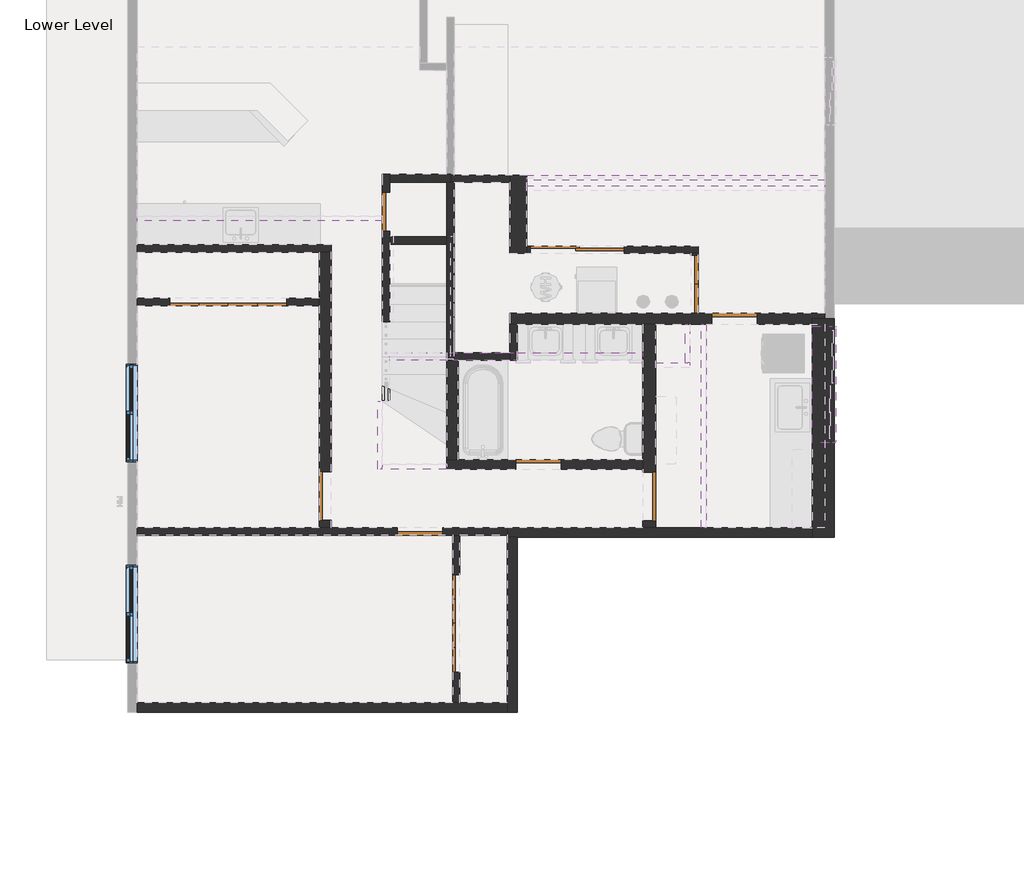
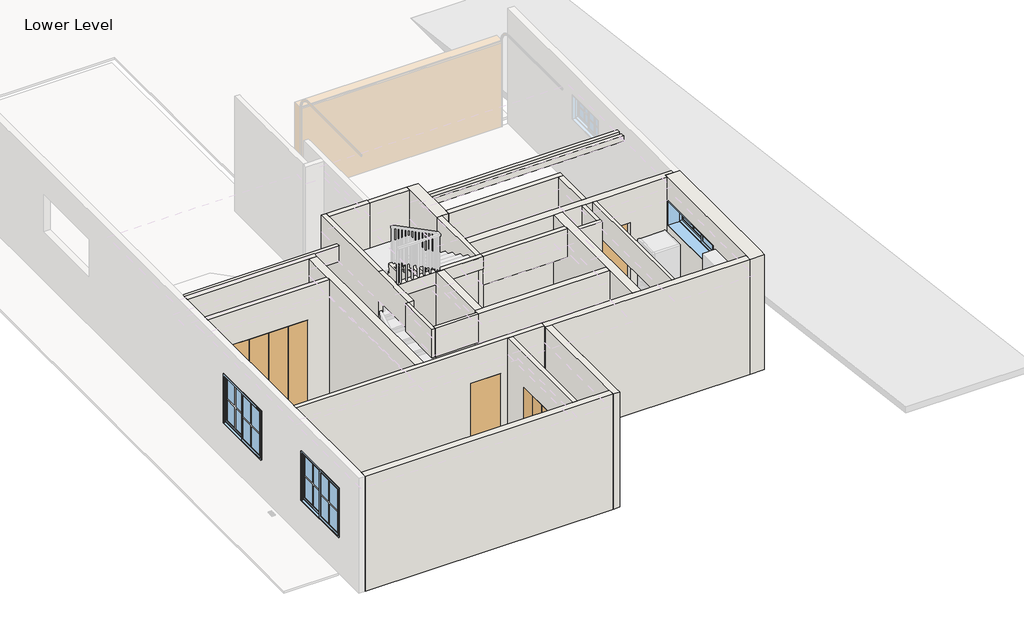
# One storey, part 1 of 3: 33 walls, 10 doors, 3 windows.
"""IFC4 building model written with IfcOpenShell, lengths in millimetres."""

from ifc_helpers import new_model, si_unit, frame, origin, place, context, project, spatial, polyline, outline, extrude, faceted_brep, transform, mapped, element, save
from components import door_0eaff616, door_2ab74324, door_614be32d, door_bd139ccc, door_8162d734, door_73b491b7, door_04865f0e, door_2d0d1de0, door_69b0f0e7, door_f2f0d49f, default_1_34086e57, default_1_390526ce

model = new_model("IFC4")

# Units and contexts
model_context = context("Model", 3, world=origin())
ifc_project = project(units=[si_unit("LENGTHUNIT", "METRE", prefix="MILLI")], contexts=[model_context])

# Site, building, storey
site = spatial("IfcSite", under=ifc_project)
building = spatial("IfcBuilding", under=site)
storey = spatial("IfcBuildingStorey", under=building, Name="Lower Level", Elevation=-2844.8)

# Doors
placement = place(None, origin())
door_shape = door_0eaff616(model_context)
element("IfcDoor", 1, ObjectType="Planitar - Single Door_Flush Panel : 2'-0\" x 6'-8\"", at=placement, inside=storey, context=model_context, shape_type="MappedRepresentation", body=[
    mapped(door_shape, transform((-1797.9255931, -1218.8938544, -2844.8), x_axis=(0.0, -1.0, 0.0), y_axis=(1.0, 0.0, 0.0), z_axis=(0.0, 0.0, 1.0))),
])
door_2_shape = door_2ab74324(model_context)
element("IfcDoor", 2, ObjectType="Planitar - Single Door_Flush Panel : 2'-4\" x 6'-8\"", at=placement, inside=storey, context=model_context, shape_type="MappedRepresentation", body=[
    mapped(door_2_shape, transform((-1270.8755931, -6222.6938544, -2844.8), x_axis=(1.0, 0.0, 0.0), y_axis=(0.0, 1.0, 0.0), z_axis=(0.0, 0.0, 1.0))),
])
door_3_shape = door_614be32d(model_context)
element("IfcDoor", 3, ObjectType="Planitar - Single Door_Flush Panel : 2'-4\" x 6'-8\"", at=placement, inside=storey, context=model_context, shape_type="MappedRepresentation", body=[
    mapped(door_3_shape, transform((589.6744069, -5174.9438544, -2844.8), x_axis=(-1.0, 0.0, 0.0), y_axis=(0.0, -1.0, 0.0), z_axis=(0.0, 0.0, 1.0))),
])
door_4_shape = door_bd139ccc(model_context)
element("IfcDoor", 4, ObjectType="Planitar - Single Door_Flush Panel : 2'-4\" x 6'-8\"", at=placement, inside=storey, context=model_context, shape_type="MappedRepresentation", body=[
    mapped(door_4_shape, transform((3653.5494069, -2895.2938544, -2844.8), x_axis=(1.0, 0.0, 0.0), y_axis=(0.0, 1.0, 0.0), z_axis=(0.0, 0.0, 1.0))),
])
door_5_shape = door_8162d734(model_context)
element("IfcDoor", 5, ObjectType="Planitar - Single Door_Flush Panel : 2'-6\" x 6'-8\"", at=placement, inside=storey, context=model_context, shape_type="MappedRepresentation", body=[
    mapped(door_5_shape, transform((-2750.4255931, -5670.2438544, -2844.8), x_axis=(0.0, -1.0, 0.0), y_axis=(1.0, 0.0, 0.0), z_axis=(0.0, 0.0, 1.0))),
])
door_6_shape = door_73b491b7(model_context)
element("IfcDoor", 6, ObjectType="Planitar - Single Door_Flush Panel : 2'-6\" x 6'-8\"", at=placement, inside=storey, context=model_context, shape_type="MappedRepresentation", body=[
    mapped(door_6_shape, transform((2323.2244069, -5676.5938544, -2844.8), x_axis=(0.0, -1.0, 0.0), y_axis=(1.0, 0.0, 0.0), z_axis=(0.0, 0.0, 1.0))),
])
door_7_shape = door_04865f0e(model_context)
element("IfcDoor", 7, ObjectType="Planitar - Double Door_Flush Panel : 3'-0\" x 6'-8\"", at=placement, inside=storey, context=model_context, shape_type="MappedRepresentation", body=[
    mapped(door_7_shape, transform((3028.0744069, -2355.5438544, -2844.8), x_axis=(0.0, -1.0, 0.0), y_axis=(1.0, 0.0, 0.0), z_axis=(0.0, 0.0, 1.0))),
])
door_8_shape = door_2d0d1de0(model_context)
element("IfcDoor", 8, ObjectType="Planitar - Double Sliding Door_Flush Panel : 4'-6\" x 6'-8\" 2", at=placement, inside=storey, context=model_context, shape_type="MappedRepresentation", body=[
    mapped(door_8_shape, transform((1196.0994069, -1812.6188544, -2844.8), x_axis=(1.0, 0.0, 0.0), y_axis=(0.0, 1.0, 0.0), z_axis=(0.0, 0.0, 1.0))),
])
door_9_shape = door_69b0f0e7(model_context)
element("IfcDoor", 9, ObjectType="Planitar - Bifold Door : 5'-0\" x 6' -8\"", at=placement, inside=storey, context=model_context, shape_type="MappedRepresentation", body=[
    mapped(door_9_shape, transform((-699.3755931, -7664.1438544, -2844.8), x_axis=(0.0, 1.0, 0.0), y_axis=(-1.0, 0.0, 0.0), z_axis=(0.0, 0.0, 1.0))),
])
door_10_shape = door_f2f0d49f(model_context)
element("IfcDoor", 10, ObjectType="Planitar - Bifold Door : 6'-0\" x 6'-8\"", at=placement, inside=storey, context=model_context, shape_type="MappedRepresentation", body=[
    mapped(door_10_shape, transform((-4268.0755931, -2634.9438544, -2844.8), x_axis=(-1.0, 0.0, 0.0), y_axis=(0.0, -1.0, 0.0), z_axis=(0.0, 0.0, 1.0))),
])

# Walls
element("IfcWall", 11, ObjectType="Planitar - Generic 6\"", at=placement, inside=storey, context=model_context, shape_type="Brep", body=[
    faceted_brep([(4875.9244069, -6165.5438544, 0.0), (4875.9244069, -6165.5438544, -2844.8), (2424.8244069, -6165.5438544, -2844.8), (2221.6244069, -6165.5438544, -2844.8), (100.7244069, -6165.5438544, -2844.8), (100.7244069, -6165.5438544, 0.0), (253.1244069, -6165.5438544, 0.0), (307.8931569, -6165.5438544, 0.0), (1374.6931569, -6165.5438544, 0.0), (2221.6244069, -6165.5438544, 0.0), (2424.8244069, -6165.5438544, 0.0), (3136.0244069, -6165.5438544, 0.0), (3212.2244069, -6165.5438544, 0.0), (4875.9244069, -6317.9438544, -2844.8), (4875.9244069, -6317.9438544, 0.0), (1374.6931569, -6317.9438544, 0.0), (307.8931569, -6317.9438544, 0.0), (253.1244069, -6317.9438544, 0.0), (100.7244069, -6317.9438544, 0.0), (100.7244069, -6317.9438544, -2844.8), (253.1244069, -6317.9438544, -2844.8), (100.7244069, -6279.8438544, -2844.8), (100.7244069, -6279.8438544, 0.0)], [[[0, 1, 2, 3, 4, 5, 6, 7, 8, 9, 10, 11, 12]], [[13, 14, 15, 16, 17, 18, 19, 20]], [[4, 3, 2, 1, 13, 20, 19, 21]], [[0, 12, 11, 10, 9, 8, 7, 6, 5, 22, 18, 17, 16, 15, 14]], [[5, 4, 21, 19, 18, 22]], [[0, 14, 13, 1]]]),
])
element("IfcWall", 12, ObjectType="Planitar - Generic 6\"", at=placement, inside=storey, context=model_context, shape_type="Brep", body=[
    faceted_brep([(100.7244069, -6317.9438544, -2844.8), (100.7244069, -8902.3938544, -2844.8), (100.7244069, -9054.7938544, -2844.8), (100.7244069, -9054.7938544, 0.0), (100.7244069, -8902.3938544, 0.0), (100.7244069, -6317.9438544, 0.0), (253.1244069, -6317.9438544, -2844.8), (253.1244069, -6317.9438544, 0.0), (253.1244069, -8902.3938544, 0.0), (253.1244069, -9054.7938544, 0.0), (253.1244069, -9054.7938544, -203.2), (253.1244069, -9054.7938544, -304.8), (253.1244069, -9054.7938544, -2844.8)], [[[0, 1, 2, 3, 4, 5]], [[6, 7, 8, 9, 10, 11, 12]], [[2, 1, 0, 6, 12]], [[5, 4, 3, 9, 8, 7]], [[0, 5, 7, 6]], [[2, 12, 11, 10, 9, 3]]]),
])
element("IfcWall", 13, ObjectType="Planitar - Generic 6\"", at=placement, inside=storey, context=model_context, shape_type="Brep", body=[
    faceted_brep([(100.7244069, -8902.3938544, 0.0), (100.7244069, -8902.3938544, -2844.8), (-642.2255931, -8902.3938544, -2844.8), (-756.5255931, -8902.3938544, -2844.8), (-5690.4755931, -8902.3938544, -2844.8), (-5690.4755931, -8902.3938544, 0.0), (-756.5255931, -8902.3938544, 0.0), (-642.2255931, -8902.3938544, 0.0), (100.7244069, -9054.7938544, -2844.8), (100.7244069, -9054.7938544, 0.0), (-5690.4755931, -9054.7938544, 0.0), (-5690.4755931, -9054.7938544, -2844.8)], [[[0, 1, 2, 3, 4, 5, 6, 7]], [[8, 9, 10, 11]], [[4, 3, 2, 1, 8, 11]], [[0, 7, 6, 5, 10, 9]], [[5, 4, 11, 10]], [[0, 9, 8, 1]]]),
])
element("IfcWall", 14, ObjectType="Planitar - Generic 4 1/2\"", at=placement, inside=storey, context=model_context, shape_type="Brep", body=[
    faceted_brep([(100.7244069, -6165.5438544, -2844.8), (-915.2755931, -6165.5438544, -2844.8), (-915.2755931, -6165.5438544, -812.8), (-1626.4755931, -6165.5438544, -812.8), (-1626.4755931, -6165.5438544, -2844.8), (-2655.1755931, -6165.5438544, -2844.8), (-2845.6755931, -6165.5438544, -2844.8), (-5690.4755931, -6165.5438544, -2844.8), (-5690.4755931, -6165.5438544, 0.0), (-2845.6755931, -6165.5438544, 0.0), (-2655.1755931, -6165.5438544, 0.0), (100.7244069, -6165.5438544, 0.0), (-915.2755931, -6279.8438544, -812.8), (-915.2755931, -6279.8438544, -2844.8), (-756.5255931, -6279.8438544, -2844.8), (-642.2255931, -6279.8438544, -2844.8), (100.7244069, -6279.8438544, -2844.8), (100.7244069, -6279.8438544, 0.0), (-642.2255931, -6279.8438544, 0.0), (-756.5255931, -6279.8438544, 0.0), (-5690.4755931, -6279.8438544, 0.0), (-5690.4755931, -6279.8438544, -2844.8), (-1626.4755931, -6279.8438544, -2844.8), (-1626.4755931, -6279.8438544, -812.8)], [[[0, 1, 2, 3, 4, 5, 6, 7, 8, 9, 10, 11]], [[12, 13, 14, 15, 16, 17, 18, 19, 20, 21, 22, 23]], [[22, 21, 7, 6, 5, 4]], [[16, 15, 14, 13, 1, 0]], [[11, 10, 9, 8, 20, 19, 18, 17]], [[0, 11, 17, 16]], [[8, 7, 21, 20]], [[2, 1, 13, 12]], [[3, 2, 12, 23]], [[4, 3, 23, 22]]]),
])
element("IfcWall", 15, ObjectType="Planitar - Generic 4 1/2\"", at=placement, inside=storey, context=model_context, shape_type="SweptSolid", body=[
    extrude(outline(polyline([(-8902.3938544, 0.0), (-6279.8438544, 0.0), (-6279.8438544, -2844.8), (-6902.1438544, -2844.8), (-6902.1438544, -812.8), (-8426.1438544, -812.8), (-8426.1438544, -2844.8), (-8902.3938544, -2844.8), (-8902.3938544, 0.0)])), frame((-756.5255931, 0.0, 0.0), z_axis=(1.0, 0.0, 0.0), x_axis=(0.0, 1.0, 0.0)), (0.0, 0.0, 1.0), 114.3),
])
element("IfcWall", 16, ObjectType="Planitar - Generic 4 1/2\"", at=placement, inside=storey, context=model_context, shape_type="Brep", body=[
    faceted_brep([(-5690.4755931, -1853.8938544, -2844.8), (-2845.6755931, -1853.8938544, -2844.8), (-2655.1755931, -1853.8938544, -2844.8), (-2655.1755931, -1853.8938544, 0.0), (-2845.6755931, -1853.8938544, 0.0), (-5690.4755931, -1853.8938544, 0.0), (-5690.4755931, -1739.5938544, -2844.8), (-5690.4755931, -1739.5938544, 0.0), (-2655.1755931, -1739.5938544, 0.0), (-2655.1755931, -1739.5938544, -2844.8)], [[[0, 1, 2, 3, 4, 5]], [[6, 7, 8, 9]], [[2, 1, 0, 6, 9]], [[5, 4, 3, 8, 7]], [[0, 5, 7, 6]], [[3, 2, 9, 8]]]),
])
element("IfcWall", 17, ObjectType="Planitar - Generic 4 1/2\"", at=placement, inside=storey, context=model_context, shape_type="SweptSolid", body=[
    extrude(outline(polyline([(0.0, -2845.6755931), (0.0, -5690.4755931), (-2844.8, -5690.4755931), (-2844.8, -5182.4755931), (-812.8, -5182.4755931), (-812.8, -3353.6755931), (-2844.8, -3353.6755931), (-2844.8, -2845.6755931), (0.0, -2845.6755931)])), frame((0.0, -2692.0938544, 0.0), z_axis=(0.0, 1.0, 0.0), x_axis=(0.0, 0.0, 1.0)), (0.0, 0.0, 1.0), 114.3),
])
element("IfcWall", 18, ObjectType="Planitar - Generic 7 1/2\"", at=placement, inside=storey, context=model_context, shape_type="Brep", body=[
    faceted_brep([(-2845.6755931, -6051.2438544, -812.8), (-2845.6755931, -6051.2438544, -2844.8), (-2845.6755931, -6165.5438544, -2844.8), (-2845.6755931, -6165.5438544, 0.0), (-2845.6755931, -2692.0938544, 0.0), (-2845.6755931, -2577.7938544, 0.0), (-2845.6755931, -1853.8938544, 0.0), (-2845.6755931, -1853.8938544, -2844.8), (-2845.6755931, -2577.7938544, -2844.8), (-2845.6755931, -2692.0938544, -2844.8), (-2845.6755931, -5289.2438544, -2844.8), (-2845.6755931, -5289.2438544, -812.8), (-2655.1755931, -6165.5438544, -2844.8), (-2655.1755931, -6051.2438544, -2844.8), (-2655.1755931, -6051.2438544, -812.8), (-2655.1755931, -5289.2438544, -812.8), (-2655.1755931, -5289.2438544, -2844.8), (-2655.1755931, -1853.8938544, -2844.8), (-2655.1755931, -1853.8938544, 0.0), (-2655.1755931, -6165.5438544, 0.0)], [[[0, 1, 2, 3, 4, 5, 6, 7, 8, 9, 10, 11]], [[12, 13, 14, 15, 16, 17, 18, 19]], [[2, 1, 13, 12]], [[10, 9, 8, 7, 17, 16]], [[6, 5, 4, 3, 19, 18]], [[7, 6, 18, 17]], [[3, 2, 12, 19]], [[14, 13, 1, 0]], [[15, 14, 0, 11]], [[16, 15, 11, 10]]]),
])
element("IfcWall", 19, ObjectType="Planitar - Generic 6\"", at=placement, inside=storey, context=model_context, shape_type="Brep", body=[
    faceted_brep([(-845.4255931, -5251.1438544, -2844.8), (234.0744069, -5251.1438544, -2844.8), (234.0744069, -5251.1438544, -812.8), (945.2744069, -5251.1438544, -812.8), (945.2744069, -5251.1438544, -2844.8), (2221.6244069, -5251.1438544, -2844.8), (2221.6244069, -5251.1438544, 0.0), (-845.4255931, -5251.1438544, 0.0), (-845.4255931, -5251.1438544, -698.5), (234.0744069, -5098.7438544, -812.8), (234.0744069, -5098.7438544, -2844.8), (-667.6255931, -5098.7438544, -2844.8), (-845.4255931, -5098.7438544, -2844.8), (-845.4255931, -5098.7438544, 0.0), (-667.6255931, -5098.7438544, 0.0), (2221.6244069, -5098.7438544, 0.0), (2221.6244069, -5098.7438544, -2844.8), (945.2744069, -5098.7438544, -2844.8), (945.2744069, -5098.7438544, -812.8), (-845.4255931, -5174.9438544, 0.0)], [[[0, 1, 2, 3, 4, 5, 6, 7, 8]], [[9, 10, 11, 12, 13, 14, 15, 16, 17, 18]], [[17, 16, 5, 4]], [[12, 11, 10, 1, 0]], [[7, 6, 15, 14, 13, 19]], [[6, 5, 16, 15]], [[7, 19, 13, 12, 0, 8]], [[2, 1, 10, 9]], [[3, 2, 9, 18]], [[4, 3, 18, 17]]]),
])
element("IfcWall", 20, ObjectType="Planitar - Generic 7\"", at=placement, inside=storey, context=model_context, shape_type="Brep", body=[
    faceted_brep([(-667.6255931, -5098.7438544, 0.0), (-667.6255931, -5098.7438544, -2844.8), (-667.6255931, -3542.9938544, -2844.8), (-667.6255931, -3542.9938544, 0.0), (-845.4255931, -5098.7438544, -2844.8), (-845.4255931, -5098.7438544, 0.0), (-845.4255931, -3542.9938544, 0.0), (-845.4255931, -3542.9938544, -158.0444444), (-845.4255931, -3542.9938544, -2844.8), (-731.1255931, -3542.9938544, -2844.8), (-731.1255931, -3542.9938544, 0.0)], [[[0, 1, 2, 3]], [[4, 5, 6, 7, 8]], [[2, 1, 4, 8, 9]], [[0, 3, 10, 6, 5]], [[0, 5, 4, 1]], [[2, 9, 8, 7, 6, 10, 3]]]),
])
element("IfcWall", 21, ObjectType="Planitar - Generic 4 1/2\"", at=placement, inside=storey, context=model_context, shape_type="Brep", body=[
    faceted_brep([(-1740.7755931, -3542.9938544, -304.8), (138.8244069, -3542.9938544, -304.8), (253.1244069, -3542.9938544, -304.8), (253.1244069, -3542.9938544, 0.0), (-667.6255931, -3542.9938544, 0.0), (-845.4255931, -3542.9938544, 0.0), (-1740.7755931, -3542.9938544, 0.0), (-1740.7755931, -3428.6938544, -304.8), (-1740.7755931, -3428.6938544, 0.0), (138.8244069, -3428.6938544, 0.0), (253.1244069, -3428.6938544, 0.0), (253.1244069, -3428.6938544, -304.8), (138.8244069, -3428.6938544, -304.8)], [[[0, 1, 2, 3, 4, 5, 6]], [[7, 8, 9, 10, 11, 12]], [[3, 2, 11, 10]], [[0, 6, 8, 7]], [[2, 1, 0, 7, 12, 11]], [[6, 5, 4, 3, 10, 9, 8]]]),
])
element("IfcWall", 22, ObjectType="Planitar - Generic 4 1/2\"", at=placement, inside=storey, context=model_context, shape_type="Brep", body=[
    faceted_brep([(253.1244069, -3542.9938544, -304.8), (253.1244069, -3542.9938544, -698.5), (253.1244069, -3542.9938544, -2844.8), (253.1244069, -2977.8438544, -2844.8), (253.1244069, -2977.8438544, -474.1333333), (253.1244069, -2812.7438544, -474.1333333), (253.1244069, -2598.3225068, -474.1333333), (253.1244069, -2623.3225068, -632.1777778), (253.1244069, -2211.4653909, -632.1777778), (253.1244069, -2236.4653909, -790.2222222), (253.1244069, -1907.158275, -790.2222222), (253.1244069, -1932.158275, -948.2666667), (253.1244069, -1872.9438544, -948.2666667), (253.1244069, -1872.9438544, 0.0), (253.1244069, -2812.7438544, 0.0), (253.1244069, -2977.8438544, 0.0), (253.1244069, -3428.6938544, 0.0), (253.1244069, -3428.6938544, -304.8), (138.8244069, -3542.9938544, -2844.8), (138.8244069, -3542.9938544, -304.8), (138.8244069, -3428.6938544, -304.8), (138.8244069, -3428.6938544, 0.0), (138.8244069, -1872.9438544, 0.0), (138.8244069, -1872.9438544, -948.2666667), (138.8244069, -1932.158275, -948.2666667), (138.8244069, -1907.158275, -790.2222222), (138.8244069, -2236.4653909, -790.2222222), (138.8244069, -2211.4653909, -632.1777778), (138.8244069, -2623.3225068, -632.1777778), (138.8244069, -2598.3225068, -474.1333333), (138.8244069, -2812.7438544, -474.1333333), (138.8244069, -2977.8438544, -474.1333333), (138.8244069, -2977.8438544, -2844.8), (138.8244069, -3428.6938544, -2844.8)], [[[0, 1, 2, 3, 4, 5, 6, 7, 8, 9, 10, 11, 12, 13, 14, 15, 16, 17]], [[18, 19, 20, 21, 22, 23, 24, 25, 26, 27, 28, 29, 30, 31, 32, 33]], [[0, 19, 18, 2, 1]], [[17, 16, 21, 20]], [[16, 15, 14, 13, 22, 21]], [[17, 20, 19, 0]], [[6, 5, 4, 31, 30, 29]], [[7, 6, 29, 28]], [[8, 7, 28, 27]], [[9, 8, 27, 26]], [[10, 9, 26, 25]], [[11, 10, 25, 24]], [[12, 11, 24, 23]], [[3, 2, 18, 33, 32]], [[4, 3, 32, 31]], [[13, 12, 23, 22]]]),
])
element("IfcWall", 23, ObjectType="Planitar - Generic 6 1/2\"", at=placement, inside=storey, context=model_context, shape_type="Brep", body=[
    faceted_brep([(4009.1494069, -2977.8438544, -812.8), (4009.1494069, -2977.8438544, -2844.8), (4875.9244069, -2977.8438544, -2844.8), (4875.9244069, -2977.8438544, 0.0), (3212.2244069, -2977.8438544, 0.0), (3136.0244069, -2977.8438544, 0.0), (2958.2244069, -2977.8438544, 0.0), (2882.0244069, -2977.8438544, 0.0), (2424.8244069, -2977.8438544, 0.0), (2221.6244069, -2977.8438544, 0.0), (253.1244069, -2977.8438544, 0.0), (253.1244069, -2977.8438544, -474.1333333), (138.8244069, -2977.8438544, -474.1333333), (138.8244069, -2977.8438544, -2844.8), (253.1244069, -2977.8438544, -2844.8), (2221.6244069, -2977.8438544, -2844.8), (2424.8244069, -2977.8438544, -2844.8), (3297.9494069, -2977.8438544, -2844.8), (3297.9494069, -2977.8438544, -812.8), (5066.4244069, -2812.7438544, -2844.8), (4009.1494069, -2812.7438544, -2844.8), (4009.1494069, -2812.7438544, -812.8), (3297.9494069, -2812.7438544, -812.8), (3297.9494069, -2812.7438544, -2844.8), (138.8244069, -2812.7438544, -2844.8), (138.8244069, -2812.7438544, -474.1333333), (253.1244069, -2812.7438544, -474.1333333), (253.1244069, -2812.7438544, 0.0), (2970.9244069, -2812.7438544, 0.0), (3085.2244069, -2812.7438544, 0.0), (5066.4244069, -2812.7438544, 0.0), (5066.4244069, -2895.2938544, -2844.8), (4875.9244069, -2895.2938544, -2844.8), (4875.9244069, -2895.2938544, 0.0), (5066.4244069, -2895.2938544, 0.0)], [[[0, 1, 2, 3, 4, 5, 6, 7, 8, 9, 10, 11, 12, 13, 14, 15, 16, 17, 18]], [[19, 20, 21, 22, 23, 24, 25, 26, 27, 28, 29, 30]], [[2, 1, 20, 19, 31, 32]], [[17, 16, 15, 14, 13, 24, 23]], [[10, 9, 8, 7, 6, 5, 4, 3, 33, 34, 30, 29, 28, 27]], [[3, 2, 32, 33]], [[21, 20, 1, 0]], [[22, 21, 0, 18]], [[23, 22, 18, 17]], [[32, 31, 34, 33]], [[31, 19, 30, 34]], [[11, 26, 25, 12]], [[13, 12, 25, 24]], [[11, 10, 27, 26]]]),
])
element("IfcWall", 24, ObjectType="Planitar - Generic 8\"", at=placement, inside=storey, context=model_context, shape_type="Brep", body=[
    faceted_brep([(2221.6244069, -6057.5938544, -812.8), (2221.6244069, -6057.5938544, -2844.8), (2221.6244069, -6165.5438544, -2844.8), (2221.6244069, -6165.5438544, 0.0), (2221.6244069, -5251.1438544, 0.0), (2221.6244069, -5098.7438544, 0.0), (2221.6244069, -3542.9938544, 0.0), (2221.6244069, -3428.6938544, 0.0), (2221.6244069, -2977.8438544, 0.0), (2221.6244069, -2977.8438544, -2844.8), (2221.6244069, -5098.7438544, -2844.8), (2221.6244069, -5251.1438544, -2844.8), (2221.6244069, -5295.5938544, -2844.8), (2221.6244069, -5295.5938544, -812.8), (2424.8244069, -6165.5438544, -2844.8), (2424.8244069, -6057.5938544, -2844.8), (2424.8244069, -6057.5938544, -812.8), (2424.8244069, -5295.5938544, -812.8), (2424.8244069, -5295.5938544, -2844.8), (2424.8244069, -2977.8438544, -2844.8), (2424.8244069, -2977.8438544, 0.0), (2424.8244069, -3587.4438544, 0.0), (2424.8244069, -3663.6438544, 0.0), (2424.8244069, -6165.5438544, 0.0)], [[[0, 1, 2, 3, 4, 5, 6, 7, 8, 9, 10, 11, 12, 13]], [[14, 15, 16, 17, 18, 19, 20, 21, 22, 23]], [[2, 1, 15, 14]], [[12, 11, 10, 9, 19, 18]], [[8, 7, 6, 5, 4, 3, 23, 22, 21, 20]], [[3, 2, 14, 23]], [[9, 8, 20, 19]], [[16, 15, 1, 0]], [[17, 16, 0, 13]], [[18, 17, 13, 12]]]),
])
element("IfcWall", 25, ObjectType="Planitar - Generic 4 1/2\"", at=placement, inside=storey, context=model_context, shape_type="Brep", body=[
    faceted_brep([(-1855.0755931, -1523.6938544, -1270.0), (-1855.0755931, -1523.6938544, -2844.8), (-1855.0755931, -4138.8193993, -2844.8), (-1855.0755931, -4169.0437692, -2686.7555556), (-1855.0755931, -3905.1970966, -2686.7555556), (-1855.0755931, -3923.7238411, -2578.7111111), (-1855.0755931, -3719.6792657, -2578.7111111), (-1855.0755931, -3744.6792657, -2420.6666667), (-1855.0755931, -3440.2792657, -2420.6666667), (-1855.0755931, -3465.2792657, -2262.6222222), (-1855.0755931, -3160.8792657, -2262.6222222), (-1855.0755931, -3185.8792657, -2104.5777778), (-1855.0755931, -2939.7438544, -2104.5777778), (-1855.0755931, -2939.7438544, -698.5), (-1855.0755931, -4184.3438544, -698.5), (-1855.0755931, -4184.3438544, 0.0), (-1855.0755931, -2939.7438544, 0.0), (-1855.0755931, -634.6938544, 0.0), (-1855.0755931, -634.6938544, -2844.8), (-1855.0755931, -914.0938544, -2844.8), (-1855.0755931, -914.0938544, -1270.0), (-1740.7755931, -4138.8193993, -2844.8), (-1740.7755931, -1726.8938544, -2844.8), (-1740.7755931, -1612.5938544, -2844.8), (-1740.7755931, -1523.6938544, -2844.8), (-1740.7755931, -1523.6938544, -1270.0), (-1740.7755931, -914.0938544, -1270.0), (-1740.7755931, -914.0938544, -2844.8), (-1740.7755931, -761.6938544, -2844.8), (-1740.7755931, -634.6938544, -2844.8), (-1740.7755931, -634.6938544, 0.0), (-1740.7755931, -761.6938544, 0.0), (-1740.7755931, -2939.7438544, 0.0), (-1740.7755931, -3428.6938544, 0.0), (-1740.7755931, -3542.9938544, 0.0), (-1740.7755931, -4184.3438544, 0.0), (-1740.7755931, -4184.3438544, -698.5), (-1740.7755931, -2939.7438544, -698.5), (-1740.7755931, -2939.7438544, -2104.5777778), (-1740.7755931, -3185.8792657, -2104.5777778), (-1740.7755931, -3160.8792657, -2262.6222222), (-1740.7755931, -3465.2792657, -2262.6222222), (-1740.7755931, -3440.2792657, -2420.6666667), (-1740.7755931, -3744.6792657, -2420.6666667), (-1740.7755931, -3719.6792657, -2578.7111111), (-1740.7755931, -3923.7238411, -2578.7111111), (-1740.7755931, -3905.1970966, -2686.7555556), (-1740.7755931, -4169.0437692, -2686.7555556)], [[[0, 1, 2, 3, 4, 5, 6, 7, 8, 9, 10, 11, 12, 13, 14, 15, 16, 17, 18, 19, 20]], [[21, 22, 23, 24, 25, 26, 27, 28, 29, 30, 31, 32, 33, 34, 35, 36, 37, 38, 39, 40, 41, 42, 43, 44, 45, 46, 47]], [[18, 17, 30, 29]], [[19, 18, 29, 28, 27]], [[2, 1, 24, 23, 22, 21]], [[17, 16, 32, 31, 30]], [[4, 3, 47, 46]], [[6, 5, 45, 44]], [[7, 6, 44, 43]], [[8, 7, 43, 42]], [[9, 8, 42, 41]], [[10, 9, 41, 40]], [[11, 10, 40, 39]], [[12, 11, 39, 38]], [[13, 12, 38, 37]], [[14, 13, 37, 36]], [[15, 14, 36, 35]], [[16, 15, 35, 34, 33, 32]], [[25, 24, 1, 0]], [[26, 25, 0, 20]], [[27, 26, 20, 19]], [[5, 4, 46, 45]], [[3, 2, 21, 47]]]),
])
element("IfcWall", 26, ObjectType="Planitar - Generic 10 1/2\"", at=placement, inside=storey, context=model_context, shape_type="Brep", body=[
    faceted_brep([(138.8244069, -647.3938544, 0.0), (138.8244069, -647.3938544, -2844.8), (138.8244069, -761.6938544, -2844.8), (138.8244069, -1872.9438544, -2844.8), (138.8244069, -1872.9438544, -948.2666667), (138.8244069, -1872.9438544, 0.0), (138.8244069, -761.6938544, 0.0), (405.5244069, -647.3938544, -2844.8), (405.5244069, -647.3938544, -444.5), (405.5244069, -647.3938544, -304.8), (405.5244069, -647.3938544, 0.0), (405.5244069, -1758.6438544, 0.0), (405.5244069, -1872.9438544, 0.0), (405.5244069, -1872.9438544, -2844.8), (405.5244069, -1758.6438544, -2844.8), (253.1244069, -1872.9438544, 0.0)], [[[0, 1, 2, 3, 4, 5, 6]], [[7, 8, 9, 10, 11, 12, 13, 14]], [[3, 2, 1, 7, 14, 13]], [[0, 6, 5, 15, 12, 11, 10]], [[0, 10, 9, 8, 7, 1]], [[3, 13, 12, 15, 5, 4]]]),
])
element("IfcWall", 27, ObjectType="Planitar - Generic 4 1/2\"", at=placement, inside=storey, context=model_context, shape_type="Brep", body=[
    faceted_brep([(3085.2244069, -1872.9438544, 0.0), (2970.9244069, -1872.9438544, 0.0), (405.5244069, -1872.9438544, 0.0), (405.5244069, -1872.9438544, -2844.8), (459.4994069, -1872.9438544, -2844.8), (459.4994069, -1872.9438544, -812.8), (1932.6994069, -1872.9438544, -812.8), (1932.6994069, -1872.9438544, -2844.8), (2970.9244069, -1872.9438544, -2844.8), (3085.2244069, -1872.9438544, -2844.8), (405.5244069, -1758.6438544, 0.0), (3085.2244069, -1758.6438544, 0.0), (3085.2244069, -1758.6438544, -2844.8), (1932.6994069, -1758.6438544, -2844.8), (1932.6994069, -1758.6438544, -812.8), (459.4994069, -1758.6438544, -812.8), (459.4994069, -1758.6438544, -2844.8), (405.5244069, -1758.6438544, -2844.8)], [[[0, 1, 2, 3, 4, 5, 6, 7, 8, 9]], [[10, 11, 12, 13, 14, 15, 16, 17]], [[12, 9, 8, 7, 13]], [[3, 17, 16, 4]], [[2, 1, 0, 11, 10]], [[0, 9, 12, 11]], [[6, 14, 13, 7]], [[14, 6, 5, 15]], [[15, 5, 4, 16]], [[2, 10, 17, 3]]]),
])
element("IfcWall", 28, ObjectType="Planitar - Generic 4 1/2\"", at=placement, inside=storey, context=model_context, shape_type="SweptSolid", body=[
    extrude(outline(polyline([(-2812.7438544, 0.0), (-1872.9438544, 0.0), (-1872.9438544, -2844.8), (-1898.3438544, -2844.8), (-1898.3438544, -812.8), (-2812.7438544, -812.8), (-2812.7438544, 0.0)])), frame((2970.9244069, 0.0, 0.0), z_axis=(1.0, 0.0, 0.0), x_axis=(0.0, 1.0, 0.0)), (0.0, 0.0, 1.0), 114.3),
])
element("IfcWall", 29, ObjectType="Planitar - Generic 4 1/2\"", at=placement, inside=storey, context=model_context, shape_type="Brep", body=[
    faceted_brep([(-845.4255931, -3542.9938544, -2844.8), (-845.4255931, -3542.9938544, 0.0), (-845.4255931, -3441.3168149, 0.0), (-845.4255931, -3466.3414741, -158.0444444), (-845.4255931, -3428.6938544, -158.0444444), (-845.4255931, -3137.0421596, -158.0444444), (-845.4255931, -3162.0421596, -316.0888889), (-845.4255931, -2832.7350437, -316.0888889), (-845.4255931, -2857.7350437, -474.1333333), (-845.4255931, -2528.4279279, -474.1333333), (-845.4255931, -2553.4279279, -632.1777778), (-845.4255931, -2224.120812, -632.1777778), (-845.4255931, -2249.120812, -790.2222222), (-845.4255931, -1919.8136961, -790.2222222), (-845.4255931, -1944.8136961, -948.2666667), (-845.4255931, -1615.5065803, -948.2666667), (-845.4255931, -1648.4157479, -1156.3111111), (-845.4255931, -761.6938544, -1156.3111111), (-845.4255931, -761.6938544, -2844.8), (-845.4255931, -1504.6438544, -2844.8), (-845.4255931, -1612.5938544, -2844.8), (-845.4255931, -1726.8938544, -2844.8), (-731.1255931, -3542.9938544, -2844.8), (-731.1255931, -3428.6938544, -2844.8), (-731.1255931, -1504.6438544, -2844.8), (-731.1255931, -761.6938544, -2844.8), (-731.1255931, -761.6938544, -1156.3111111), (-731.1255931, -1648.4157479, -1156.3111111), (-731.1255931, -1615.5065803, -948.2666667), (-731.1255931, -1944.8136961, -948.2666667), (-731.1255931, -1919.8136961, -790.2222222), (-731.1255931, -2249.120812, -790.2222222), (-731.1255931, -2224.120812, -632.1777778), (-731.1255931, -2553.4279279, -632.1777778), (-731.1255931, -2528.4279279, -474.1333333), (-731.1255931, -2857.7350437, -474.1333333), (-731.1255931, -2832.7350437, -316.0888889), (-731.1255931, -3162.0421596, -316.0888889), (-731.1255931, -3137.0421596, -158.0444444), (-731.1255931, -3428.6938544, -158.0444444), (-731.1255931, -3466.3414741, -158.0444444), (-731.1255931, -3441.3168149, 0.0), (-731.1255931, -3542.9938544, 0.0), (-731.1255931, -3542.9938544, -158.0444444), (-788.2755931, -761.6938544, -2844.8)], [[[0, 1, 2, 3, 4, 5, 6, 7, 8, 9, 10, 11, 12, 13, 14, 15, 16, 17, 18, 19, 20, 21]], [[22, 23, 24, 25, 26, 27, 28, 29, 30, 31, 32, 33, 34, 35, 36, 37, 38, 39, 40, 41, 42, 43]], [[0, 21, 20, 19, 24, 23, 22]], [[2, 1, 42, 41]], [[3, 2, 41, 40]], [[5, 4, 3, 40, 39, 38]], [[19, 18, 44, 25, 24]], [[6, 5, 38, 37]], [[7, 6, 37, 36]], [[8, 7, 36, 35]], [[9, 8, 35, 34]], [[10, 9, 34, 33]], [[11, 10, 33, 32]], [[12, 11, 32, 31]], [[13, 12, 31, 30]], [[14, 13, 30, 29]], [[15, 14, 29, 28]], [[16, 15, 28, 27]], [[17, 16, 27, 26]], [[1, 0, 22, 43, 42]], [[18, 17, 26, 25, 44]]]),
])
element("IfcWall", 30, ObjectType="Planitar - Generic 4 1/2\"", at=placement, inside=storey, context=model_context, shape_type="Brep", body=[
    faceted_brep([(138.8244069, -647.3938544, 0.0), (138.8244069, -647.3938544, -2844.8), (107.0744069, -647.3938544, -2844.8), (-7.2255931, -647.3938544, -2844.8), (-731.1255931, -647.3938544, -2844.8), (-788.2755931, -647.3938544, -2844.8), (-788.2755931, -647.3938544, 0.0), (-731.1255931, -647.3938544, 0.0), (138.8244069, -761.6938544, -2844.8), (138.8244069, -761.6938544, 0.0), (-788.2755931, -761.6938544, 0.0), (-788.2755931, -761.6938544, -2844.8), (-731.1255931, -761.6938544, -2844.8)], [[[0, 1, 2, 3, 4, 5, 6, 7]], [[8, 9, 10, 11, 12]], [[5, 4, 3, 2, 1, 8, 12, 11]], [[0, 7, 6, 10, 9]], [[5, 11, 10, 6]], [[0, 9, 8, 1]]]),
])
element("IfcWall", 31, ObjectType="Planitar - Generic 5\"", at=placement, inside=storey, context=model_context, shape_type="Brep", body=[
    faceted_brep([(-1740.7755931, -761.6938544, -2844.8), (-845.4255931, -761.6938544, -2844.8), (-788.2755931, -761.6938544, -2844.8), (-788.2755931, -761.6938544, 0.0), (-1740.7755931, -761.6938544, 0.0), (-1740.7755931, -634.6938544, -2844.8), (-1740.7755931, -634.6938544, 0.0), (-845.4255931, -634.6938544, 0.0), (-788.2755931, -634.6938544, 0.0), (-788.2755931, -634.6938544, -2844.8), (-845.4255931, -634.6938544, -2844.8), (-788.2755931, -647.3938544, -2844.8), (-788.2755931, -647.3938544, 0.0)], [[[0, 1, 2, 3, 4]], [[5, 6, 7, 8, 9, 10]], [[2, 1, 0, 5, 10, 9, 11]], [[4, 3, 12, 8, 7, 6]], [[0, 4, 6, 5]], [[2, 11, 9, 8, 12, 3]]]),
])
element("IfcWall", 32, ObjectType="Planitar - Generic 3\"", at=placement, inside=storey, context=model_context, shape_type="SweptSolid", body=[
    extrude(outline(polyline([(-1855.0755931, -1364.9438544), (-5690.4755931, -1364.9438544), (-5690.4755931, -1288.7438544), (-1855.0755931, -1288.7438544), (-1855.0755931, -1364.9438544)])), frame((0.0, 0.0, -698.5), z_axis=(0.0, 0.0, 1.0), x_axis=(1.0, 0.0, 0.0)), (0.0, 0.0, 1.0), 393.7),
])
element("IfcWall", 33, ObjectType="Planitar - Generic 3\"", at=placement, inside=storey, context=model_context, shape_type="Brep", body=[
    faceted_brep([(-1931.2755931, -4184.3438544, -698.5), (-1931.2755931, -5251.1438544, -698.5), (-1931.2755931, -5251.1438544, 0.0), (-1931.2755931, -4184.3438544, 0.0), (-1855.0755931, -4184.3438544, -698.5), (-1855.0755931, -4184.3438544, 0.0), (-1855.0755931, -5174.9438544, 0.0), (-1855.0755931, -5251.1438544, 0.0), (-1855.0755931, -5251.1438544, -698.5), (-1855.0755931, -5174.9438544, -698.5)], [[[0, 1, 2, 3]], [[4, 5, 6, 7, 8, 9]], [[1, 0, 4, 9, 8]], [[3, 2, 7, 6, 5]], [[0, 3, 5, 4]], [[2, 1, 8, 7]]]),
])
element("IfcWall", 34, ObjectType="Planitar - Generic 3\"", at=placement, inside=storey, context=model_context, shape_type="SweptSolid", body=[
    extrude(outline(polyline([(-845.4255931, -5251.1438544), (-1855.0755931, -5251.1438544), (-1855.0755931, -5174.9438544), (-845.4255931, -5174.9438544), (-845.4255931, -5251.1438544)])), frame((0.0, 0.0, -698.5), z_axis=(0.0, 0.0, 1.0), x_axis=(1.0, 0.0, 0.0)), (0.0, 0.0, 1.0), 698.5),
])
element("IfcWall", 35, ObjectType="Planitar - Generic 3\"", at=placement, inside=storey, context=model_context, shape_type="SweptSolid", body=[
    extrude(outline(polyline([(3136.0244069, -6165.5438544), (3136.0244069, -2977.8438544), (3212.2244069, -2977.8438544), (3212.2244069, -6165.5438544), (3136.0244069, -6165.5438544)])), frame((0.0, 0.0, -698.5), z_axis=(0.0, 0.0, 1.0), x_axis=(1.0, 0.0, 0.0)), (0.0, 0.0, 1.0), 698.5),
])
element("IfcWall", 36, ObjectType="Planitar - Generic 3\"", at=placement, inside=storey, context=model_context, shape_type="Brep", body=[
    faceted_brep([(2424.8244069, -3663.6438544, -850.9), (2958.2244069, -3663.6438544, -850.9), (2958.2244069, -3663.6438544, 0.0), (2424.8244069, -3663.6438544, 0.0), (2424.8244069, -3587.4438544, -850.9), (2424.8244069, -3587.4438544, 0.0), (2882.0244069, -3587.4438544, 0.0), (2958.2244069, -3587.4438544, 0.0), (2958.2244069, -3587.4438544, -850.9), (2882.0244069, -3587.4438544, -850.9)], [[[0, 1, 2, 3]], [[4, 5, 6, 7, 8, 9]], [[1, 0, 4, 9, 8]], [[3, 2, 7, 6, 5]], [[0, 3, 5, 4]], [[2, 1, 8, 7]]]),
])
element("IfcWall", 37, ObjectType="Planitar - Generic 3\"", at=placement, inside=storey, context=model_context, shape_type="SweptSolid", body=[
    extrude(outline(polyline([(2958.2244069, -2977.8438544), (2958.2244069, -3587.4438544), (2882.0244069, -3587.4438544), (2882.0244069, -2977.8438544), (2958.2244069, -2977.8438544)])), frame((0.0, 0.0, -850.9), z_axis=(0.0, 0.0, 1.0), x_axis=(1.0, 0.0, 0.0)), (0.0, 0.0, 1.0), 850.9),
])
element("IfcWall", 38, ObjectType="Planitar - Generic 4 1/2\"", at=placement, inside=storey, context=model_context, shape_type="Brep", body=[
    faceted_brep([(253.1244069, -3542.9938544, -698.5), (2221.6244069, -3542.9938544, -698.5), (2221.6244069, -3542.9938544, 0.0), (253.1244069, -3542.9938544, 0.0), (253.1244069, -3542.9938544, -304.8), (253.1244069, -3428.6938544, -698.5), (253.1244069, -3428.6938544, -304.8), (253.1244069, -3428.6938544, 0.0), (2221.6244069, -3428.6938544, 0.0), (2221.6244069, -3428.6938544, -698.5)], [[[0, 1, 2, 3, 4]], [[5, 6, 7, 8, 9]], [[1, 0, 5, 9]], [[3, 2, 8, 7]], [[0, 4, 3, 7, 6, 5]], [[2, 1, 9, 8]]]),
])
element("IfcWall", 39, ObjectType="Planitar - Generic 4 1/2\"", at=placement, inside=storey, context=model_context, shape_type="Brep", body=[
    faceted_brep([(138.8244069, -3428.6938544, 0.0), (138.8244069, -3428.6938544, -2844.8), (-731.1255931, -3428.6938544, -2844.8), (-731.1255931, -3428.6938544, -158.0444444), (-845.4255931, -3428.6938544, -158.0444444), (-845.4255931, -3428.6938544, 0.0), (138.8244069, -3542.9938544, -2844.8), (138.8244069, -3542.9938544, -304.8), (138.8244069, -3542.9938544, 0.0), (-667.6255931, -3542.9938544, 0.0), (-845.4255931, -3542.9938544, 0.0), (-845.4255931, -3542.9938544, -158.0444444), (-731.1255931, -3542.9938544, -158.0444444), (-731.1255931, -3542.9938544, -2844.8), (-667.6255931, -3542.9938544, -2844.8), (-845.4255931, -3466.3414741, -158.0444444), (-731.1255931, -3466.3414741, -158.0444444)], [[[0, 1, 2, 3, 4, 5]], [[6, 7, 8, 9, 10, 11, 12, 13, 14]], [[2, 1, 6, 14, 13]], [[0, 5, 10, 9, 8]], [[0, 8, 7, 6, 1]], [[11, 15, 4, 3, 16, 12]], [[3, 2, 13, 12, 16]], [[5, 4, 15, 11, 10]]]),
])
element("IfcWall", 40, ObjectType="Planitar - Generic 4 1/2\"", at=placement, inside=storey, context=model_context, shape_type="SweptSolid", body=[
    extrude(outline(polyline([(-845.4255931, -1726.8938544), (-1740.7755931, -1726.8938544), (-1740.7755931, -1612.5938544), (-845.4255931, -1612.5938544), (-845.4255931, -1726.8938544)])), frame((0.0, 0.0, -2844.8), z_axis=(0.0, 0.0, 1.0), x_axis=(1.0, 0.0, 0.0)), (0.0, 0.0, 1.0), 1530.4444444),
])
element("IfcWall", 41, ObjectType="Planitar - Generic 1' - 1 1/2\"", at=placement, inside=storey, context=model_context, shape_type="Brep", body=[
    faceted_brep([(4875.9244069, -2895.2938544, -2844.8), (4875.9244069, -2977.8438544, -2844.8), (4875.9244069, -6165.5438544, -2844.8), (4875.9244069, -6317.9438544, -2844.8), (4875.9244069, -6317.9438544, 0.0), (4875.9244069, -6165.5438544, 0.0), (4875.9244069, -2977.8438544, 0.0), (4875.9244069, -2895.2938544, 0.0), (4875.9244069, -4838.3938544, -558.8), (4875.9244069, -4838.3938544, -1168.4), (4875.9244069, -3009.5938544, -1168.4), (4875.9244069, -3009.5938544, -558.8), (5218.8244069, -6317.9438544, -2844.8), (5218.8244069, -2895.2938544, -2844.8), (5218.8244069, -2895.2938544, 0.0), (5218.8244069, -6165.5438544, 0.0), (5218.8244069, -6317.9438544, 0.0), (5218.8244069, -6317.9438544, -1175.7330706), (5218.8244069, -4838.3938544, -1168.4), (5218.8244069, -4838.3938544, -558.8), (5218.8244069, -3009.5938544, -558.8), (5218.8244069, -3009.5938544, -1168.4), (5066.4244069, -2895.2938544, -2844.8), (5066.4244069, -2895.2938544, 0.0)], [[[0, 1, 2, 3, 4, 5, 6, 7], [8, 9, 10, 11]], [[12, 13, 14, 15, 16, 17], [18, 19, 20, 21]], [[3, 2, 1, 0, 22, 13, 12]], [[7, 6, 5, 4, 16, 15, 14, 23]], [[0, 7, 23, 14, 13, 22]], [[8, 19, 18, 9]], [[9, 18, 21, 10]], [[10, 21, 20, 11]], [[19, 8, 11, 20]], [[3, 12, 17, 16, 4]]]),
])
element("IfcWall", 42, ObjectType="Planitar - Generic 3\"", at=placement, inside=storey, context=model_context, shape_type="SweptSolid", body=[
    extrude(outline(polyline([(5066.4244069, -888.6938544), (405.5244069, -888.6938544), (405.5244069, -812.4938544), (5066.4244069, -812.4938544), (5066.4244069, -888.6938544)])), frame((0.0, 0.0, -444.5), z_axis=(0.0, 0.0, 1.0), x_axis=(1.0, 0.0, 0.0)), (0.0, 0.0, 1.0), 139.7),
])
element("IfcWall", 43, ObjectType="Planitar - Generic 3\"", at=placement, inside=storey, context=model_context, shape_type="SweptSolid", body=[
    extrude(outline(polyline([(405.5244069, -647.3938544), (5066.4244069, -647.3938544), (5066.4244069, -723.5938544), (405.5244069, -723.5938544), (405.5244069, -647.3938544)])), frame((0.0, 0.0, -444.5), z_axis=(0.0, 0.0, 1.0), x_axis=(1.0, 0.0, 0.0)), (0.0, 0.0, 1.0), 139.7),
])

# Windows
default_1_shape = default_1_34086e57(model_context)
element("IfcWindow", 44, ObjectType="Planitar-Sliding-Double : Default 1", at=placement, inside=storey, context=model_context, shape_type="MappedRepresentation", body=[
    mapped(default_1_shape, transform((5051.1844069, -3923.9938544, -2082.8), x_axis=(0.0, -1.0, 0.0), y_axis=(1.0, 0.0, 0.0), z_axis=(0.0, 0.0, 1.0))),
])
default_1_2_shape = default_1_390526ce(model_context)
element("IfcWindow", 45, ObjectType="Planitar-Sliding-Double : Default 1", at=placement, inside=storey, context=model_context, shape_type="MappedRepresentation", body=[
    mapped(default_1_2_shape, transform((-5770.4855931, -7518.0938544, -2844.8), x_axis=(0.0, 1.0, 0.0), y_axis=(-1.0, 0.0, 0.0), z_axis=(0.0, 0.0, 1.0))),
])
element("IfcWindow", 46, ObjectType="Planitar-Sliding-Double : Default 1", at=placement, inside=storey, context=model_context, shape_type="MappedRepresentation", body=[
    mapped(default_1_2_shape, transform((-5770.4855931, -4368.4938544, -2844.8), x_axis=(0.0, 1.0, 0.0), y_axis=(-1.0, 0.0, 0.0), z_axis=(0.0, 0.0, 1.0))),
])

save(model, "model.ifc")
